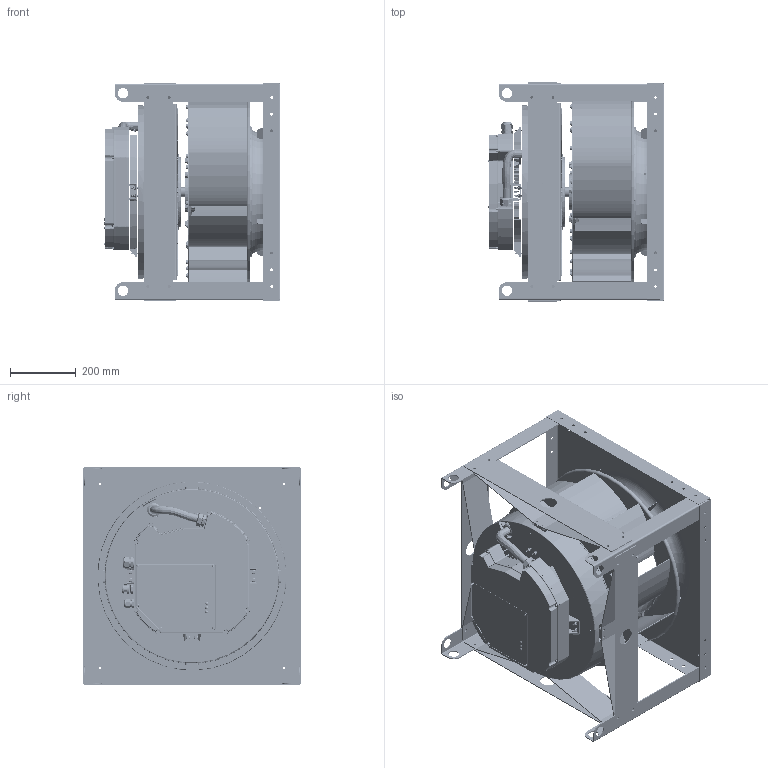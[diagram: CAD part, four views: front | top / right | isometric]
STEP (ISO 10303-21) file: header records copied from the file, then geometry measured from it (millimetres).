
FILE_DESCRIPTION (( 'STEP AP214' ), '1' );
FILE_NAME ('655772.STEP', '2026-06-10T16:59:43', ( '' ), ( '' ), 'SwSTEP 2.0', 'SolidWorks 2023', '' );
FILE_SCHEMA (( 'AUTOMOTIVE_DESIGN' ));
Length unit declared in the file: inch
Products named in the file (19): SXP22 WHEEL ASSY_655589; SXP22 FP_651389; SXP22 INLET_651414; 655772; 651587_651587; 651588_651588; 941153_941153; 941768_941768; 925959CS_925959CS; 941770_BUSHING  TB2012 X 1.125; SXP22 WHEEL WELDMENT_655574; 941044_941044; 651583_651583; SXPI STRAP_651579; SXP22 INLET ASSY_655579; 941156_941156; SXP22 BP_651390; SXP22 BLADE_651387; SXP22 BAFFLE_651419
Assembly tree (83 placements, depth 4):
  655772
    651587_651587
    SXP22 INLET ASSY_655579
      SXP22 INLET_651414
      SXP22 BAFFLE_651419  x4
    SXP22 WHEEL ASSY_655589
      SXP22 WHEEL WELDMENT_655574
        SXP22 FP_651389
        SXP22 BLADE_651387  x9
        SXP22 BP_651390
        941044_941044  x36
      941153_941153  x6
      941156_941156  x6
      941768_941768
    925959CS_925959CS
    651588_651588  x4
    941770_BUSHING  TB2012 X 1.125
    651583_651583  x4
    SXPI STRAP_651579  x4
Bounding box: 536.78 x 663.7 x 663.7 mm (x, y, z)
Volume: 6841093 mm3; surface area: 6243883.4 mm2
Topology: 79 solids, 371 shells, 7094 faces, 21068 edges, 14199 vertices
Faces by surface type: plane 2788, cylinder 1719, bspline 1439, cone 782, torus 298, sphere 68
Full cylindrical faces by diameter (mm): 2.9 x2, 3.962 x10, 4.762 x3, 4.763 x15, 5.105 x16, 6 x37, 6.35 x36, 7 x5, 7.137 x16, 7.544 x2, 7.937 x3, 7.938 x1, 8.5 x1, 8.738 x87, 9 x4, 9.525 x12, 9.73 x8, 10 x8, 10.1 x1, 11.8 x16, 12.5 x1, 12.6 x1, 13 x15, 13.208 x36, 14 x1, 14.097 x6, 17.462 x2, 17.463 x2, 19.05 x6, 20.32 x10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
Entity records: 277505 total; most frequent: CARTESIAN_POINT 182766, ORIENTED_EDGE 18682, DIRECTION 17027, EDGE_CURVE 11729, VERTEX_POINT 8398, AXIS2_PLACEMENT_3D 6823, EDGE_LOOP 4858, FACE_OUTER_BOUND 4118
